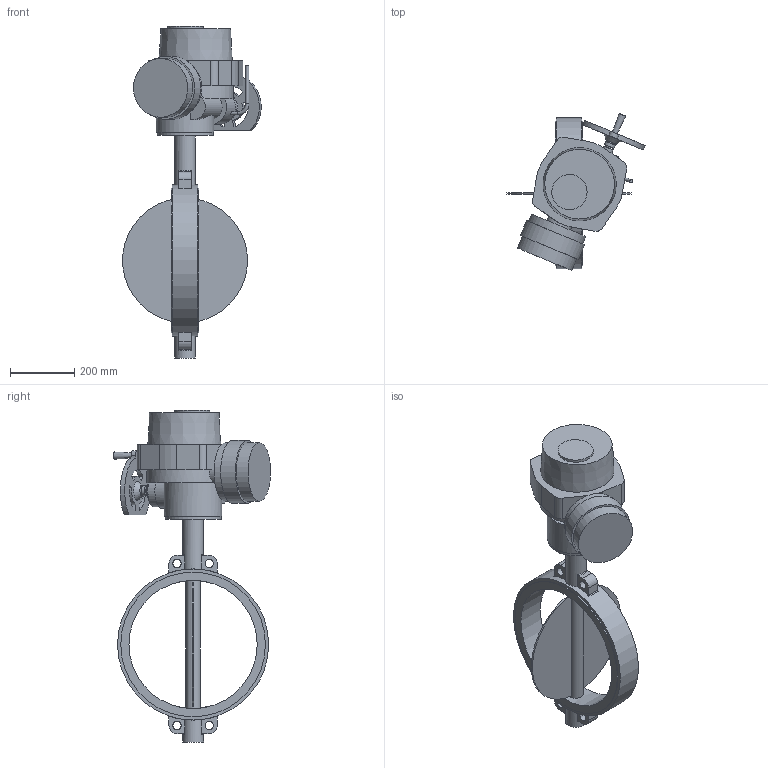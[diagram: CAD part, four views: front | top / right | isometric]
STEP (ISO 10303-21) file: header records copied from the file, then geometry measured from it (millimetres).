
FILE_DESCRIPTION(('STEP AP203'), '1');
FILE_NAME('青蜮铕 017W.YS_DN400_PN10_QT.A 120', '', ('UNSPECIFIED'), ('UNSPECIFIED'), 'ASCON STEP Converter 1.6', 'ASCON Math Kernel', '');
FILE_SCHEMA(('CONFIG_CONTROL_DESIGN'));
Length unit declared in the file: millimetre
Bounding box: 431.39 x 489.85 x 1035 mm (x, y, z)
Volume: 24346028.2 mm3; surface area: 1251773 mm2
Topology: 1 solids, 1 shells, 173 faces, 407 edges, 269 vertices
Faces by surface type: plane 94, cylinder 71, torus 5, cone 3
Full cylindrical faces by diameter (mm): 10 x2, 14 x4, 16 x1, 18 x4, 26 x4, 32 x2, 35 x1, 45 x1, 65 x2, 80 x2, 100 x1, 110 x1, 175 x1, 180 x1, 183 x2, 196 x1, 400 x1, 451 x2, 471 x1
Entity records: 7991 total; most frequent: CARTESIAN_POINT 2582, DIRECTION 859, ORIENTED_EDGE 738, EDGE_CURVE 369, AXIS2_PLACEMENT_3D 346, VERTEX_POINT 269, EDGE_LOOP 262, FACE_BOUND 191
